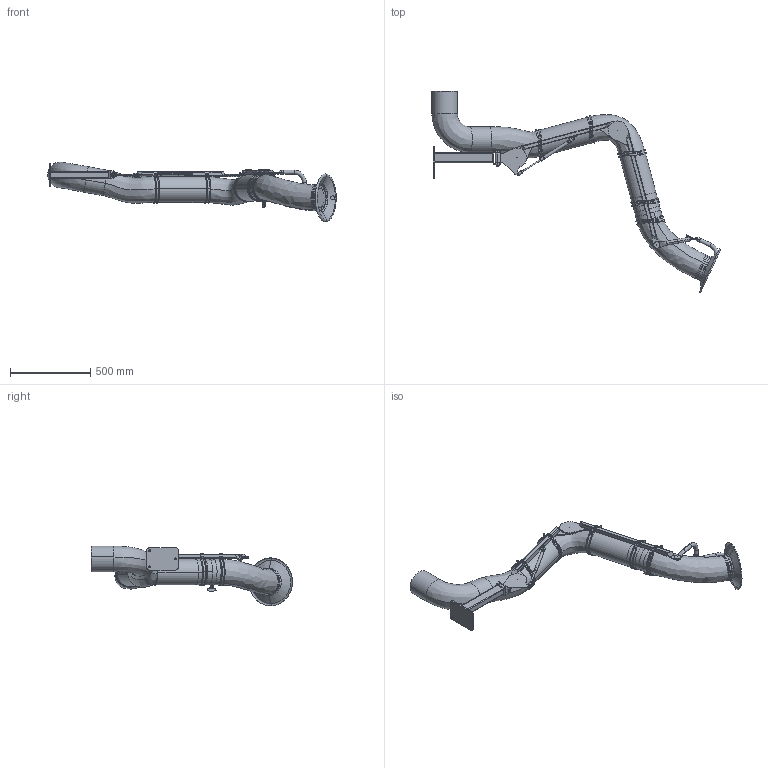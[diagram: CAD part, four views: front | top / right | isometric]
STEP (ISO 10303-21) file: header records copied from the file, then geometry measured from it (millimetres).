
FILE_DESCRIPTION((''),'2;1');
FILE_NAME('PSR_2000-160_D_EXD','2022-10-04T13:20:07',('Tomas Bellgran'),(''),'CREO PARAMETRIC BY PTC INC, 2018260','CREO PARAMETRIC BY PTC INC, 2018260','');
FILE_SCHEMA(('AUTOMOTIVE_DESIGN { 1 0 10303 214 1 1 1 1 }'));
Length unit declared in the file: millimetre
Products named in the file (43): 141554; 141580; 141581; 122701; 141512; 141556; 141582; 141587; 141522; 121391; 131150; 139382; 131151; 131172; 144356; 141589; 134343_AF0; G_P136_WELD-REF; 141590; 122717_LIGHT; 120127_COMPL_LIGHT; 130315; ROD_STAB_8-160-REF; 131095; 130320_AF35; 131145; 139631; 139616; 139615; 139614; 139628; 131207; 122291; 122295; 131217; 131219; 131222; 131202; 141622; 121082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
Assembly tree (58 placements, depth 4):
  PSR_2000-160_D_EXD
    141512
      141554
      141580
      141581
      122701
    141522
      141556
      141582
      141587
    121391  x4
    131150
    131172
      139382
      131151
    144356  x2
    141590
      141589
      134343_AF0
      G_P136_WELD-REF
    122717_LIGHT
    120127_COMPL_LIGHT
    130320_AF35
      130315
      ROD_STAB_8-160-REF
      131095  x2
    131145  x2
    139628
      139631  x3
      139616
      139615
      139614
    131202
      131207
      122295
        122291
      131222
        131217
        131219
    141622
    121082
    124460  x5
    107523-11  x5
Bounding box: 1795.45 x 1252.27 x 372.93 mm (x, y, z)
Volume: 52749375.2 mm3; surface area: 2222469.9 mm2
Topology: 49 solids, 49 shells, 1107 faces, 2629 edges, 1623 vertices
Faces by surface type: plane 397, cylinder 350, bspline 202, torus 72, cone 56, extrusion 15, revolution 13, sphere 2
Entity records: 40642 total; most frequent: CARTESIAN_POINT 13908, DIRECTION 3388, ORIENTED_EDGE 3098, PRESENTATION_STYLE_ASSIGNMENT 2179, STYLED_ITEM 2152, CURVE_STYLE 1569, EDGE_CURVE 1549, AXIS2_PLACEMENT_3D 1344
